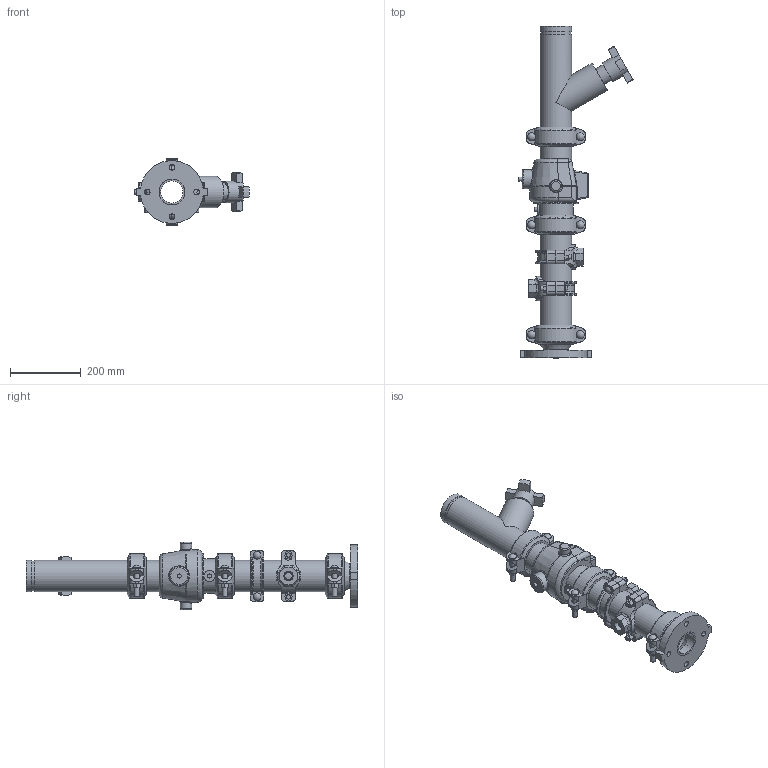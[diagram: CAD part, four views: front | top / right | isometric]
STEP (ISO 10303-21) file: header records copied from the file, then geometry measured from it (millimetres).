
FILE_DESCRIPTION(/* description */ ('VIC DVI PUMP DROP VERT S/383 (OGSxFLG)','CAx-IF Rec.Pracs.---Representation and Presentation of Product Manufacturing Information (PMI)---4.0---2014-10-13'),/* implementation_level */ '2;1');
FILE_NAME(/* name */ 'C:\Users\Public\Documents\Victaulic.Temp\A849\Victaulic_IPS_Vertical DVI_CL 150_Series 383 (OGSxFLG)_03.0x02.5 (80x65).stp',/* time_stamp */ '2022-07-25T11:38:24+02:00',/* author */ ('Vjadhav'),/* organization */ ('Victaulic'),/* preprocessor_version */ 'ST-DEVELOPER v18',/* originating_system */ 'Autodesk Inventor 2020',/* authorisation */ '');
FILE_SCHEMA (('AP242_MANAGED_MODEL_BASED_3D_ENGINEERING_MIM_LF { 1 0 10303 442 1 1 4 }'));
Length unit declared in the file: inch
Products named in the file (10): 383-03.0x02.5; 741-02.5; 050-03.0x02.5; Pipe-03.0; 177N-03.0; 716H-03.0; 789-03.0; 920NT-03.0x0.75; 920N LOWER HSG-03.0; 920NT-03.0x0.75_1
Assembly tree (12 placements, depth 3):
  383-03.0x02.5
    741-02.5
    050-03.0x02.5
    177N-03.0  x3
    Pipe-03.0
    716H-03.0
    789-03.0
    920NT-03.0x0.75  x2
      920N LOWER HSG-03.0
      920NT-03.0x0.75_1
Bounding box: 324.61 x 939.8 x 190.5 mm (x, y, z)
Volume: 5635274.3 mm3; surface area: 1004624.2 mm2
Topology: 12 solids, 12 shells, 696 faces, 1851 edges, 1222 vertices
Faces by surface type: plane 350, cylinder 245, torus 35, bspline 35, sphere 16, cone 15
Full cylindrical faces by diameter (mm): 11.43 x2, 12.7 x8, 14.605 x6, 15.875 x4, 20.93 x2, 21.982 x4, 22.225 x6, 26.924 x2, 31.75 x2, 32.004 x1, 50.8 x1, 53.975 x1, 60.96 x1, 62.713 x1, 69.088 x1, 73.025 x3, 76.2 x3, 77.927 x3, 80.772 x1, 84.938 x7, 88.9 x18, 97.028 x1, 127 x1
Entity records: 14688 total; most frequent: CARTESIAN_POINT 3919, DIRECTION 2156, ORIENTED_EDGE 2068, EDGE_CURVE 1034, AXIS2_PLACEMENT_3D 836, VERTEX_POINT 682, LINE 484, VECTOR 484
